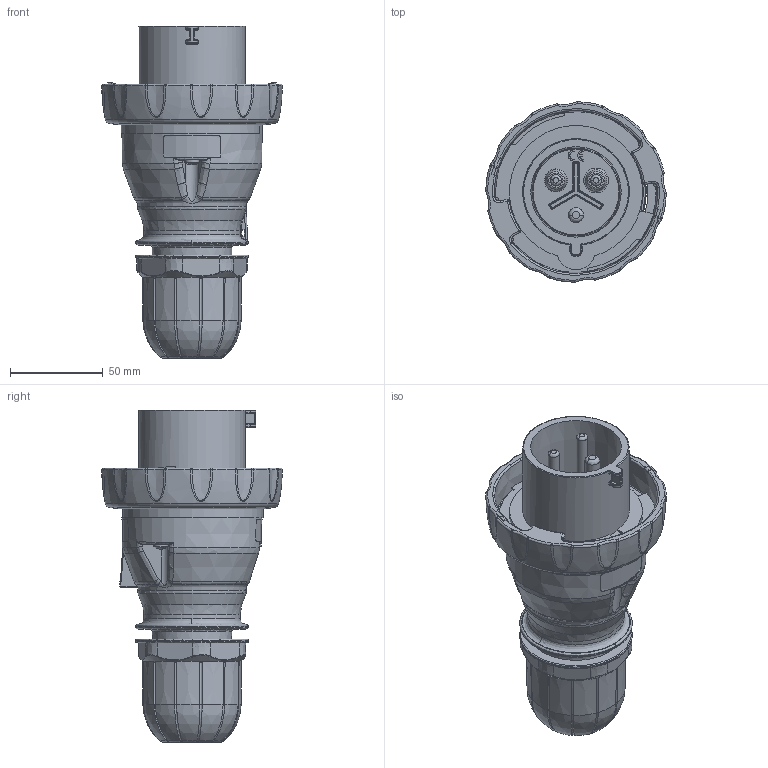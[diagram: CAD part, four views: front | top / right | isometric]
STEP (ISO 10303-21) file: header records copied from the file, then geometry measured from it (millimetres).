
FILE_DESCRIPTION(/* description */ (''),/* implementation_level */ '2;1');
FILE_NAME(/* name */ '4000883.stp',/* time_stamp */ '2019-02-28T09:53:28+01:00',/* author */ (''),/* organization */ (''),/* preprocessor_version */ 'ST-DEVELOPER v16.7',/* originating_system */ 'SIEMENS PLM Software NX 12.0',/* authorisation */ '');
FILE_SCHEMA (('AUTOMOTIVE_DESIGN { 1 0 10303 214 3 1 1 1 }'));
Products named in the file (1): bsom1430229Cmrah
Bounding box: 97.37 x 97.37 x 179.1 mm (x, y, z)
Volume: 130011.1 mm3; surface area: 178428.8 mm2
Topology: 14 solids, 17 shells, 3392 faces, 8658 edges, 5275 vertices
Faces by surface type: bspline 1203, plane 1007, cylinder 602, cone 265, torus 187, sphere 63, extrusion 56, revolution 9
Full cylindrical faces by diameter (mm): 2.8 x3, 3 x3, 3.3 x4, 3.95 x3, 4 x3, 5.5 x1, 6 x2, 6.5 x1, 7.6 x3, 8 x1, 16 x1, 17.5 x1, 44.4 x1, 45.5 x3, 45.9 x1, 57.3 x1, 60.7 x2
Entity records: 188719 total; most frequent: CARTESIAN_POINT 115403, ORIENTED_EDGE 16770, DIRECTION 10906, EDGE_CURVE 8385, VERTEX_POINT 5225, AXIS2_PLACEMENT_3D 4155, B_SPLINE_CURVE_WITH_KNOTS 3887, EDGE_LOOP 3634
